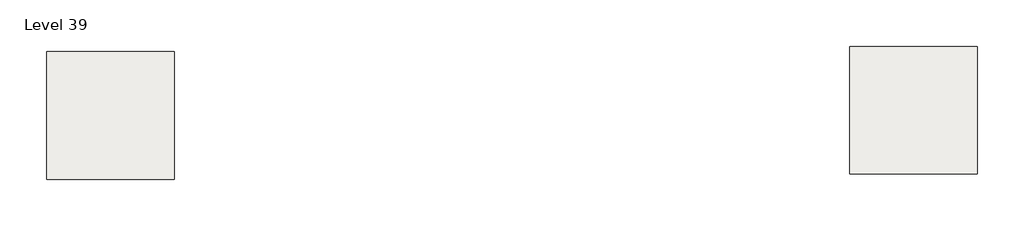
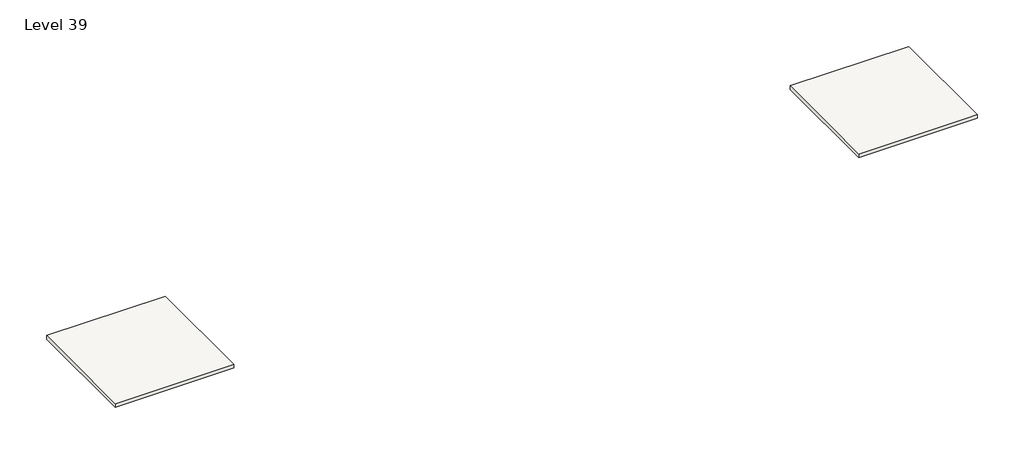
# One storey: 2 slabs.
"""IFC4 building model written with IfcOpenShell, lengths in millimetres."""

from ifc_helpers import new_model, si_unit, frame, origin, place, context, project, spatial, polyline, outline, extrude, element, save

model = new_model("IFC4")

# Units and contexts
model_context = context("Model", 3, world=origin())
ifc_project = project(units=[si_unit("LENGTHUNIT", "METRE", prefix="MILLI")], contexts=[model_context])

# Site, building, storey
site = spatial("IfcSite", under=ifc_project)
building = spatial("IfcBuilding", under=site)
storey = spatial("IfcBuildingStorey", under=building, Name="Level 39", Elevation=115824.0)

# Slabs
placement = place(None, origin())
element("IfcSlab", 1, ObjectType="Generic - 12\"", at=placement, inside=storey, context=model_context, shape_type="SweptSolid", body=[
    extrude(outline(polyline([(-8641.8488996, 6449.9495511), (-8641.8488996, -2694.0504489), (-17785.8488996, -2694.0504489), (-17785.8488996, 6449.9495511), (-8641.8488996, 6449.9495511)])), frame((0.0, 0.0, 115519.2), z_axis=(0.0, 0.0, 1.0), x_axis=(1.0, 0.0, 0.0)), (0.0, 0.0, 1.0), 304.8),
])
element("IfcSlab", 2, ObjectType="Generic - 12\"", at=placement, inside=storey, context=model_context, shape_type="SweptSolid", body=[
    extrude(outline(polyline([(48791.8576677, 6827.0904402), (48791.8576677, -2316.9095598), (39647.8576677, -2316.9095598), (39647.8576677, 6827.0904402), (48791.8576677, 6827.0904402)])), frame((0.0, 0.0, 115519.2), z_axis=(0.0, 0.0, 1.0), x_axis=(1.0, 0.0, 0.0)), (0.0, 0.0, 1.0), 304.8),
])

save(model, "model.ifc")
